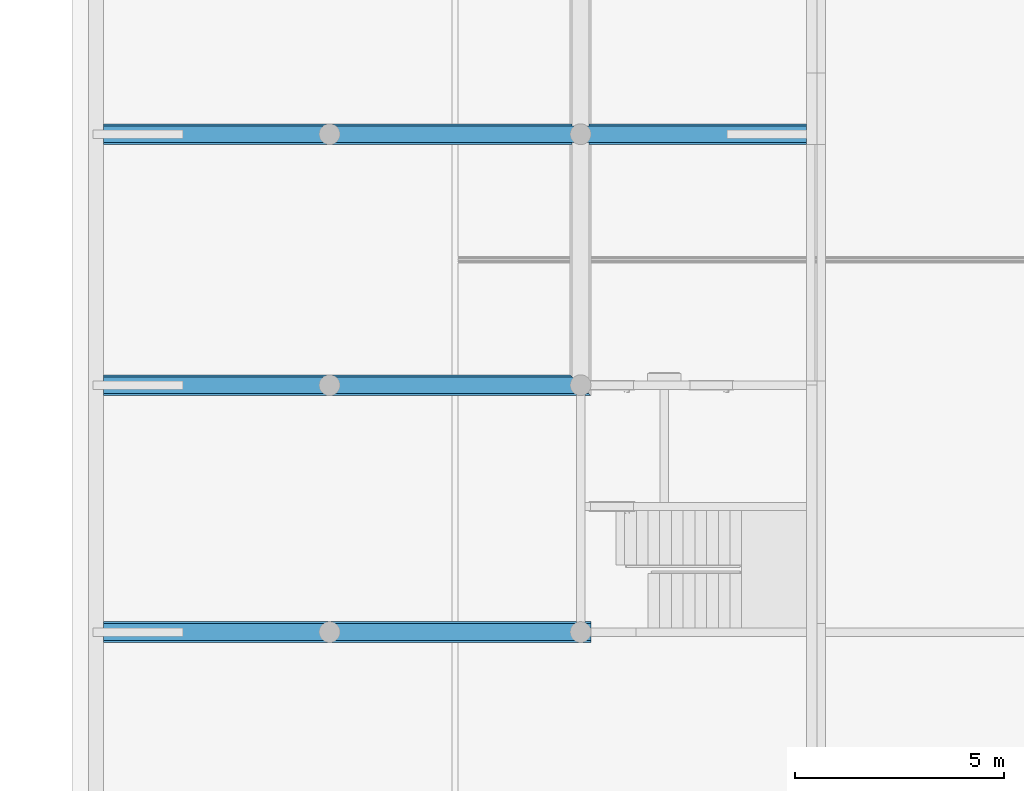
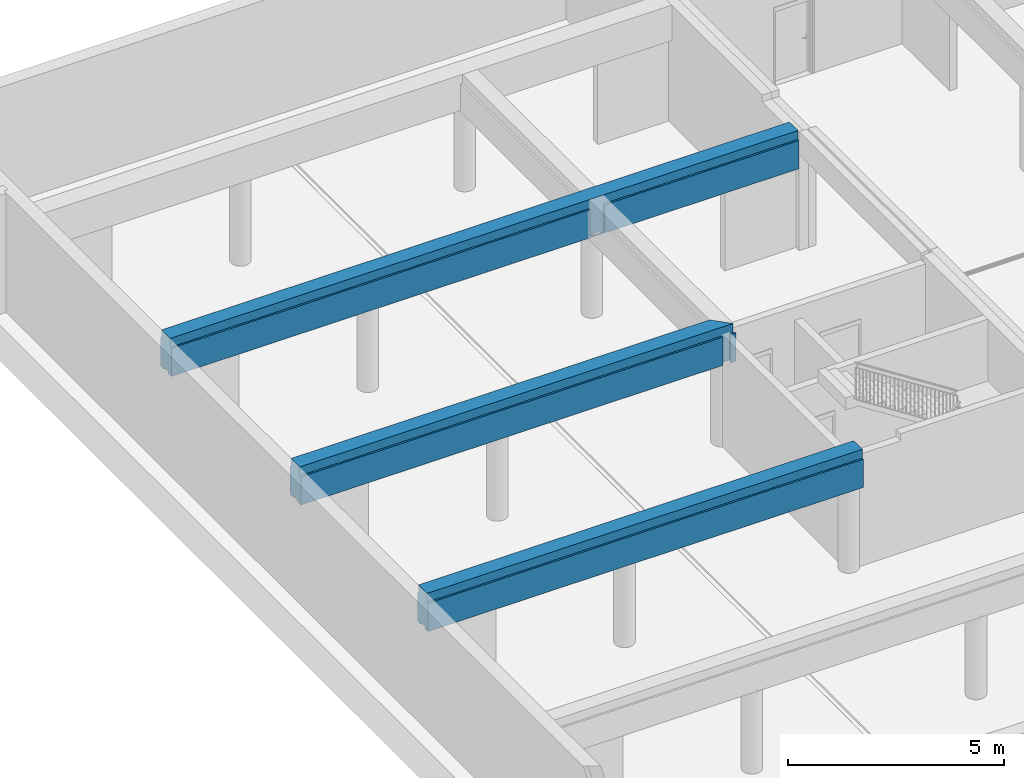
# One storey, part 7 of 25: 3 beams.
"""IFC2X3 building model written with IfcOpenShell, lengths in millimetres."""

from ifc_helpers import new_model, entity, si_unit, converted_unit, derived_unit, money_unit, direction, frame, origin_with_axes, place, context, subcontext, project, spatial, faceted_brep, material, material_list, type_object, element, save


model = new_model("IFC2X3")

# Units and contexts
model_context = context("Model", 3, precision=0.01, world=origin_with_axes(), true_north=direction((0.34421633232, 0.938890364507)))
body_context = subcontext(model_context, "Body", "Model", "MODEL_VIEW")
ifc_project = project(units=[si_unit("LENGTHUNIT", "METRE", prefix="MILLI"), si_unit("AREAUNIT", "SQUARE_METRE"), si_unit("VOLUMEUNIT", "CUBIC_METRE"), converted_unit("PLANEANGLEUNIT", "DEGREE", entity("IfcPlaneAngleMeasure", 0.0174532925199), si_unit("PLANEANGLEUNIT", "RADIAN"), dimensions=[0, 0, 0, 0, 0, 0, 0]), si_unit("SOLIDANGLEUNIT", "STERADIAN"), money_unit("USD"), converted_unit("TIMEUNIT", "Year", entity("IfcTimeMeasure", 31556926.0), si_unit("TIMEUNIT", "SECOND"), dimensions=[0, 0, 1, 0, 0, 0, 0]), si_unit("MASSUNIT", "GRAM", prefix="KILO"), si_unit("THERMODYNAMICTEMPERATUREUNIT", "DEGREE_CELSIUS"), si_unit("LUMINOUSINTENSITYUNIT", "LUMEN"), si_unit("ENERGYUNIT", "JOULE", prefix="MEGA"), derived_unit("THERMALCONDUCTANCEUNIT", [(si_unit("POWERUNIT", "WATT"), 1), (si_unit("LENGTHUNIT", "METRE"), -1), (si_unit("THERMODYNAMICTEMPERATUREUNIT", "KELVIN"), -1)]), derived_unit("SPECIFICHEATCAPACITYUNIT", [(si_unit("ENERGYUNIT", "JOULE"), 1), (si_unit("MASSUNIT", "GRAM", prefix="KILO"), -1), (si_unit("THERMODYNAMICTEMPERATUREUNIT", "KELVIN"), -1)]), derived_unit("MASSDENSITYUNIT", [(si_unit("MASSUNIT", "GRAM", prefix="KILO"), 1), (si_unit("VOLUMEUNIT", "CUBIC_METRE"), -1)])], contexts=[model_context])

# Site, building, storey
site_placement = place(None, origin_with_axes())
site = spatial("IfcSite", under=ifc_project, at=site_placement, Name="USTRONIE MORSKIE", CompositionType="ELEMENT")
building_placement = place(site_placement, origin_with_axes())
building = spatial("IfcBuilding", under=site, at=building_placement, Name="Budynek", CompositionType="ELEMENT")
storey_placement = place(building_placement, frame((0.0, 0.0, -3600.0), z_axis=(0.0, 0.0, 1.0), x_axis=(1.0, 0.0, 0.0)))
storey = spatial("IfcBuildingStorey", under=building, at=storey_placement, Name="GARAZ", CompositionType="ELEMENT", Elevation=-3600.0)

# Beams
ifc_material_1 = material(Name="Termoizolacja WEŁNA SKALNA")
ifc_material_2 = material(Name="Beton konstrukcyjny 01")
ifc_material_list = material_list([ifc_material_1, ifc_material_2])
beam_type = type_object("IfcBeamType", Name="GARAŻ P01 500 x 1050", PredefinedType="NOTDEFINED")
beam_1_placement = place(storey_placement, frame((350167.920919, 732801.199036, 3370.00030619), z_axis=(0.0, 0.0, 1.0), x_axis=(0.0, -1.0, 0.0)))
element("IfcBeam", 1, at=beam_1_placement, inside=storey, type_object=beam_type, material=ifc_material_list, Name="B1", context=body_context, shape_type="Brep", body=[
    faceted_brep([(85.5050358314, 5634.9231552, -1050.0), (43.4120444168, 5646.20193825, -1050.0), (0.0, 5650.0, -1050.0), (-43.4120444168, 5646.20193825, -1050.0), (-85.5050358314, 5634.9231552, -1050.0), (-125.0, 5616.50635095, -1050.0), (-160.696902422, 5591.51111078, -1050.0), (-191.51111078, 5560.69690242, -1050.0), (-216.506350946, 5525.0, -1050.0), (-234.923155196, 5485.50503583, -1050.0), (-246.201938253, 5443.41204442, -1050.0), (-250.0, 5400.0, -1050.0), (-250.0, 11150.0, -1050.0), (-176.104006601, 11223.8959934, -1050.0), (-160.696902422, 11208.4888892, -1050.0), (-125.0, 11183.4936491, -1050.0), (-85.5050358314, 11165.0768448, -1050.0), (-43.4120444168, 11153.7980617, -1050.0), (0.0, 11150.0, -1050.0), (43.4120444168, 11153.7980617, -1050.0), (85.5050358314, 11165.0768448, -1050.0), (125.0, 11183.4936491, -1050.0), (160.696902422, 11208.4888892, -1050.0), (191.51111078, 11239.3030976, -1050.0), (216.506350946, 11275.0, -1050.0), (228.1640424, 11300.0, -1050.0), (249.999993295, 11300.0, -1050.0), (250.0, 5400.0, -1050.0), (246.201938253, 5443.41204442, -1050.0), (234.923155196, 5485.50503583, -1050.0), (216.506350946, 5525.0, -1050.0), (191.51111078, 5560.69690242, -1050.0), (160.696902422, 5591.51111078, -1050.0), (125.0, 5616.50635095, -1050.0), (85.5050358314, 5634.9231552, -1000.0), (43.4120444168, 5646.20193825, -1000.0), (0.0, 5650.0, -1000.0), (-43.4120444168, 5646.20193825, -1000.0), (-85.5050358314, 5634.9231552, -1000.0), (-125.0, 5616.50635095, -1000.0), (-160.696902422, 5591.51111078, -1000.0), (-191.51111078, 5560.69690242, -1000.0), (-200.000002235, 5548.57350901, -1000.0), (-216.506350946, 5525.0, -1000.0), (-234.923155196, 5485.50503583, -1000.0), (-246.201938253, 5443.41204442, -1000.0), (-250.0, 5400.0, -1000.0), (-250.0, 0.0, -1050.0), (-250.0, 0.0, -250.00000447), (-250.0, 11150.0, -250.00000447), (-176.104006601, 11223.8959934, -1000.0), (-200.000002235, 11199.9999978, -250.00000447), (-200.000002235, 11199.9999978, -1000.00000224), (-160.696902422, 11208.4888892, -1000.0), (-125.0, 11183.4936491, -1000.0), (-85.5050358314, 11165.0768448, -1000.0), (-43.4120444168, 11153.7980617, -1000.0), (0.0, 11150.0, -1000.0), (43.4120444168, 11153.7980617, -1000.0), (85.5050358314, 11165.0768448, -1000.0), (125.0, 11183.4936491, -1000.0), (160.696902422, 11208.4888892, -1000.0), (191.51111078, 11239.3030976, -1000.0), (199.99999553, 11251.4264814, -1000.0), (216.506350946, 11275.0, -1000.0), (228.1640424, 11300.0, -1000.0), (199.99999553, 11300.0, -1000.0), (199.99999553, 11300.0, -250.00000447), (249.999993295, 11300.0, -250.00000447), (249.999993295, 0.0, -1050.0), (249.999993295, 0.0, -250.00000447), (250.0, 5400.0, -1000.0), (246.201938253, 5443.41204442, -1000.0), (234.923155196, 5485.50503583, -1000.0), (216.506350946, 5525.0, -1000.0), (199.99999553, 5548.57351859, -1000.0), (191.51111078, 5560.69690242, -1000.0), (160.696902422, 5591.51111078, -1000.0), (125.0, 5616.50635095, -1000.0), (-200.000002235, 5251.42649099, -1000.0), (-216.506350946, 5275.0, -1000.0), (-234.923155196, 5314.49496417, -1000.0), (-246.201938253, 5356.58795558, -1000.0), (-246.201938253, 5356.58795558, -1050.0), (-100.0, 0.0, -1050.0), (-100.0, 0.0, -1000.00030619), (-200.000002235, 0.0, -1000.00000224), (-200.000002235, 0.0, -250.00000447), (246.201938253, 5356.58795558, -1050.0), (100.0, 0.0, -1050.0), (100.0, 1900.0, -1050.0), (-100.0, 1900.0, -1050.0), (-234.923155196, 5314.49496417, -1050.0), (-216.506350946, 5275.0, -1050.0), (-191.51111078, 5239.30309758, -1050.0), (-160.696902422, 5208.48888922, -1050.0), (-125.0, 5183.49364905, -1050.0), (-85.5050358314, 5165.0768448, -1050.0), (-43.4120444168, 5153.79806175, -1050.0), (0.0, 5150.0, -1050.0), (43.4120444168, 5153.79806175, -1050.0), (85.5050358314, 5165.0768448, -1050.0), (125.0, 5183.49364905, -1050.0), (160.696902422, 5208.48888922, -1050.0), (191.51111078, 5239.30309758, -1050.0), (216.506350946, 5275.0, -1050.0), (234.923155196, 5314.49496417, -1050.0), (199.99999553, 5251.42648141, -1000.0), (199.99999553, 0.0, -1000.00000224), (199.99999553, 0.0, -250.00000447), (100.0, 0.0, -1000.00030619), (246.201938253, 5356.58795558, -1000.0), (234.923155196, 5314.49496417, -1000.0), (216.506350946, 5275.0, -1000.0), (-191.51111078, 5239.30309758, -1000.0), (-100.0, 1900.0, -1000.00030619), (100.0, 1900.0, -1000.00030619), (191.51111078, 5239.30309758, -1000.0), (160.696902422, 5208.48888922, -1000.0), (125.0, 5183.49364905, -1000.0), (85.5050358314, 5165.0768448, -1000.0), (43.4120444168, 5153.79806175, -1000.0), (0.0, 5150.0, -1000.0), (-43.4120444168, 5153.79806175, -1000.0), (-85.5050358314, 5165.0768448, -1000.0), (-125.0, 5183.49364905, -1000.0), (-160.696902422, 5208.48888922, -1000.0)], [[[0, 1, 2, 3, 4, 5, 6, 7, 8, 9, 10, 11, 12, 13, 14, 15, 16, 17, 18, 19, 20, 21, 22, 23, 24, 25, 26, 27, 28, 29, 30, 31, 32, 33]], [[34, 35, 1, 0]], [[35, 36, 2, 1]], [[36, 37, 3, 2]], [[37, 38, 4, 3]], [[38, 39, 5, 4]], [[39, 40, 6, 5]], [[40, 41, 7, 6]], [[41, 42, 43, 8, 7]], [[9, 8, 43, 44]], [[10, 9, 44, 45]], [[11, 10, 45, 46]], [[47, 48, 49, 12, 11]], [[50, 13, 12, 49, 51, 52]], [[13, 50, 53, 14]], [[53, 54, 15, 14]], [[54, 55, 16, 15]], [[55, 56, 17, 16]], [[56, 57, 18, 17]], [[57, 58, 19, 18]], [[58, 59, 20, 19]], [[59, 60, 21, 20]], [[60, 61, 22, 21]], [[61, 62, 23, 22]], [[24, 23, 62, 63, 64]], [[65, 25, 24, 64]], [[25, 65, 66, 67, 68, 26]], [[69, 27, 26, 68, 70]], [[28, 27, 71, 72]], [[29, 28, 72, 73]], [[30, 29, 73, 74]], [[75, 76, 31, 30, 74]], [[76, 77, 32, 31]], [[77, 78, 33, 32]], [[78, 34, 0, 33]], [[38, 37, 36, 35, 34, 78, 77, 76, 75, 63, 62, 61, 60, 59, 58, 57, 56, 55, 54, 53, 50, 52, 42, 41, 40, 39]], [[42, 79, 80, 81, 82, 46, 45, 44, 43]], [[83, 11, 46, 82]], [[47, 84, 85, 86, 87, 48]], [[48, 87, 51, 49]], [[88, 27, 69, 89, 90, 91, 84, 47, 11, 83, 92, 93, 94, 95, 96, 97, 98, 99, 100, 101, 102, 103, 104, 105, 106]], [[79, 42, 52, 51, 87, 86]], [[63, 66, 65, 64]], [[75, 107, 108, 109, 67, 66, 63]], [[70, 68, 67, 109]], [[108, 110, 89, 69, 70, 109]], [[27, 88, 111, 71]], [[107, 75, 74, 73, 72, 71, 111, 112, 113]], [[94, 93, 80, 79, 114]], [[93, 92, 81, 80]], [[92, 83, 82, 81]], [[91, 115, 85, 84]], [[114, 79, 86, 85, 115, 116, 110, 108, 107, 117, 118, 119, 120, 121, 122, 123, 124, 125, 126]], [[89, 110, 116, 90]], [[90, 116, 115, 91]], [[114, 126, 95, 94]], [[126, 125, 96, 95]], [[125, 124, 97, 96]], [[124, 123, 98, 97]], [[123, 122, 99, 98]], [[122, 121, 100, 99]], [[121, 120, 101, 100]], [[120, 119, 102, 101]], [[119, 118, 103, 102]], [[118, 117, 104, 103]], [[105, 104, 117, 107, 113]], [[106, 105, 113, 112]], [[88, 106, 112, 111]]]),
    faceted_brep([(176.104006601, 11576.1040066, -1050.0), (176.104006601, 11576.1040066, -1000.0), (199.99999553, 11599.9999955, -1000.00000224), (199.99999553, 11599.9999955, -250.00000447), (249.999993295, 11649.9999933, -250.00000447), (249.999993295, 11649.9999933, -1050.0), (191.51111078, 11560.6969024, -1000.0), (191.51111078, 11560.6969024, -1050.0), (199.99999553, 11548.5735186, -1000.0), (199.99999553, 11500.0, -1000.0), (199.99999553, 11500.0, -250.00000447), (249.999993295, 11500.0, -250.00000447), (249.999993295, 11500.0, -1050.0), (228.1640424, 11500.0, -1050.0), (216.506350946, 11525.0, -1050.0), (216.506350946, 11525.0, -1000.0), (228.1640424, 11500.0, -1000.0)], [[[0, 1, 2, 3, 4, 5]], [[6, 1, 0, 7]], [[6, 8, 2, 1]], [[8, 9, 10, 3, 2]], [[3, 10, 11, 4]], [[4, 11, 12, 5]], [[7, 0, 5, 12, 13, 14]], [[8, 6, 7, 14, 15]], [[9, 8, 15, 16]], [[16, 13, 12, 11, 10, 9]], [[14, 13, 16, 15]]]),
    faceted_brep([(200.0, 0.0, -1000.0), (200.0, 11600.0, -1000.0), (199.99999553, 11599.9999955, -250.00000447), (199.99999553, 0.0, -250.00000447), (-200.0, 0.0, -1000.0), (-200.0, 11200.0, -1000.0), (-200.000002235, 11199.9999978, -250.00000447), (-200.0, 11200.0, 0.0), (200.0, 11600.0, 0.0), (200.0, 0.0, 0.0), (-200.0, 0.0, 0.0), (-200.000002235, 0.0, -250.00000447)], [[[0, 1, 2, 3]], [[4, 5, 1, 0]], [[2, 1, 5, 6, 7, 8]], [[3, 2, 8, 9]], [[4, 0, 3, 9, 10, 11]], [[11, 6, 5, 4]], [[10, 7, 6, 11]], [[9, 8, 7, 10]]]),
])
beam_2_placement = place(storey_placement, frame((350167.920919, 726901.199036, 3370.00030619), z_axis=(0.0, 0.0, 1.0), x_axis=(0.0, -1.0, 0.0)))
element("IfcBeam", 2, at=beam_2_placement, inside=storey, type_object=beam_type, material=ifc_material_list, Name="B1", context=body_context, shape_type="Brep", body=[
    faceted_brep([(85.5050358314, 5634.9231552, -1050.0), (43.4120444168, 5646.20193825, -1050.0), (0.0, 5650.0, -1050.0), (-43.4120444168, 5646.20193825, -1050.0), (-85.5050358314, 5634.9231552, -1050.0), (-125.0, 5616.50635095, -1050.0), (-160.696902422, 5591.51111078, -1050.0), (-191.51111078, 5560.69690242, -1050.0), (-216.506350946, 5525.0, -1050.0), (-234.923155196, 5485.50503583, -1050.0), (-246.201938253, 5443.41204442, -1050.0), (-250.0, 5400.0, -1050.0), (-250.0, 11300.0, -1050.0), (-228.1640424, 11300.0, -1050.0), (-216.506350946, 11275.0, -1050.0), (-191.51111078, 11239.3030976, -1050.0), (-160.696902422, 11208.4888892, -1050.0), (-125.0, 11183.4936491, -1050.0), (-85.5050358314, 11165.0768448, -1050.0), (-43.4120444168, 11153.7980617, -1050.0), (0.0, 11150.0, -1050.0), (43.4120444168, 11153.7980617, -1050.0), (85.5050358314, 11165.0768448, -1050.0), (125.0, 11183.4936491, -1050.0), (160.696902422, 11208.4888892, -1050.0), (191.51111078, 11239.3030976, -1050.0), (216.506350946, 11275.0, -1050.0), (234.923155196, 11314.4949642, -1050.0), (246.201938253, 11356.5879556, -1050.0), (250.0, 11400.0, -1050.0), (250.0, 5400.0, -1050.0), (246.201938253, 5443.41204442, -1050.0), (234.923155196, 5485.50503583, -1050.0), (216.506350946, 5525.0, -1050.0), (191.51111078, 5560.69690242, -1050.0), (160.696902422, 5591.51111078, -1050.0), (125.0, 5616.50635095, -1050.0), (85.5050358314, 5634.9231552, -1000.0), (43.4120444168, 5646.20193825, -1000.0), (0.0, 5650.0, -1000.0), (-43.4120444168, 5646.20193825, -1000.0), (-85.5050358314, 5634.9231552, -1000.0), (-125.0, 5616.50635095, -1000.0), (-160.696902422, 5591.51111078, -1000.0), (-191.51111078, 5560.69690242, -1000.0), (-200.000002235, 5548.57350901, -1000.0), (-216.506350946, 5525.0, -1000.0), (-234.923155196, 5485.50503583, -1000.0), (-246.201938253, 5443.41204442, -1000.0), (-250.0, 5400.0, -1000.0), (-250.0, 0.0, -250.00000447), (-250.0, 11300.0, -250.00000447), (-250.0, 0.0, -1050.0), (-228.1640424, 11300.0, -1000.0), (-200.000002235, 11300.0, -250.00000447), (-200.000002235, 11300.0, -1000.0), (-216.506350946, 11275.0, -1000.0), (-200.000002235, 11251.426491, -1000.0), (-191.51111078, 11239.3030976, -1000.0), (-160.696902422, 11208.4888892, -1000.0), (-125.0, 11183.4936491, -1000.0), (-85.5050358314, 11165.0768448, -1000.0), (-43.4120444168, 11153.7980617, -1000.0), (0.0, 11150.0, -1000.0), (43.4120444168, 11153.7980617, -1000.0), (85.5050358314, 11165.0768448, -1000.0), (125.0, 11183.4936491, -1000.0), (160.696902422, 11208.4888892, -1000.0), (191.51111078, 11239.3030976, -1000.0), (199.99999553, 11251.4264814, -1000.0), (216.506350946, 11275.0, -1000.0), (234.923155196, 11314.4949642, -1000.0), (246.201938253, 11356.5879556, -1000.0), (250.0, 11400.0, -1000.0), (249.999993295, 0.0, -250.00000447), (249.999993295, 0.0, -1050.0), (249.999993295, 11650.0, -1050.0), (249.999993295, 11650.0, -250.00000447), (250.0, 5400.0, -1000.0), (246.201938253, 5443.41204442, -1000.0), (234.923155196, 5485.50503583, -1000.0), (216.506350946, 5525.0, -1000.0), (199.99999553, 5548.57351859, -1000.0), (191.51111078, 5560.69690242, -1000.0), (160.696902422, 5591.51111078, -1000.0), (125.0, 5616.50635095, -1000.0), (-200.000002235, 5251.42649099, -1000.0), (-216.506350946, 5275.0, -1000.0), (-234.923155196, 5314.49496417, -1000.0), (-246.201938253, 5356.58795558, -1000.0), (-246.201938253, 5356.58795558, -1050.0), (-200.000002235, 0.0, -250.00000447), (246.201938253, 5356.58795558, -1050.0), (100.0, 0.0, -1050.0), (100.0, 1900.0, -1050.0), (-100.0, 1900.0, -1050.0), (-100.0, 0.0, -1050.0), (-234.923155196, 5314.49496417, -1050.0), (-216.506350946, 5275.0, -1050.0), (-191.51111078, 5239.30309758, -1050.0), (-160.696902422, 5208.48888922, -1050.0), (-125.0, 5183.49364905, -1050.0), (-85.5050358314, 5165.0768448, -1050.0), (-43.4120444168, 5153.79806175, -1050.0), (0.0, 5150.0, -1050.0), (43.4120444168, 5153.79806175, -1050.0), (85.5050358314, 5165.0768448, -1050.0), (125.0, 5183.49364905, -1050.0), (160.696902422, 5208.48888922, -1050.0), (191.51111078, 5239.30309758, -1050.0), (216.506350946, 5275.0, -1050.0), (234.923155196, 5314.49496417, -1050.0), (-100.0, 0.0, -1000.00030619), (-200.000002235, 0.0, -1000.00000224), (199.99999553, 11548.5735186, -1000.0), (216.506350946, 11525.0, -1000.0), (234.923155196, 11485.5050358, -1000.0), (246.201938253, 11443.4120444, -1000.0), (246.201938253, 11443.4120444, -1050.0), (199.99999553, 0.0, -1000.00000224), (100.0, 0.0, -1000.00030619), (199.99999553, 0.0, -250.00000447), (125.0, 11616.5063509, -1050.0), (100.0, 11628.1640424, -1050.0), (100.0, 11650.0, -1050.0), (234.923155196, 11485.5050358, -1050.0), (216.506350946, 11525.0, -1050.0), (191.51111078, 11560.6969024, -1050.0), (160.696902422, 11591.5111108, -1050.0), (100.0, 11650.0, -1000.00000224), (199.99999553, 11650.0, -1000.00000224), (199.99999553, 11650.0, -250.00000447), (246.201938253, 5356.58795558, -1000.0), (199.99999553, 5251.42648141, -1000.0), (234.923155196, 5314.49496417, -1000.0), (216.506350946, 5275.0, -1000.0), (-191.51111078, 5239.30309758, -1000.0), (100.0, 1900.0, -1000.00030619), (-100.0, 1900.0, -1000.00030619), (-160.696902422, 5208.48888922, -1000.0), (-125.0, 5183.49364905, -1000.0), (-85.5050358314, 5165.0768448, -1000.0), (-43.4120444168, 5153.79806175, -1000.0), (0.0, 5150.0, -1000.0), (43.4120444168, 5153.79806175, -1000.0), (85.5050358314, 5165.0768448, -1000.0), (125.0, 5183.49364905, -1000.0), (160.696902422, 5208.48888922, -1000.0), (191.51111078, 5239.30309758, -1000.0), (191.51111078, 11560.6969024, -1000.0), (125.0, 11616.5063509, -1000.0), (100.0, 11628.1640424, -1000.0), (160.696902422, 11591.5111108, -1000.0)], [[[0, 1, 2, 3, 4, 5, 6, 7, 8, 9, 10, 11, 12, 13, 14, 15, 16, 17, 18, 19, 20, 21, 22, 23, 24, 25, 26, 27, 28, 29, 30, 31, 32, 33, 34, 35, 36]], [[37, 38, 1, 0]], [[38, 39, 2, 1]], [[39, 40, 3, 2]], [[40, 41, 4, 3]], [[41, 42, 5, 4]], [[42, 43, 6, 5]], [[43, 44, 7, 6]], [[44, 45, 46, 8, 7]], [[9, 8, 46, 47]], [[10, 9, 47, 48]], [[11, 10, 48, 49]], [[50, 51, 12, 11, 52]], [[53, 13, 12, 51, 54, 55]], [[13, 53, 56, 14]], [[15, 14, 56, 57, 58]], [[58, 59, 16, 15]], [[59, 60, 17, 16]], [[60, 61, 18, 17]], [[61, 62, 19, 18]], [[62, 63, 20, 19]], [[63, 64, 21, 20]], [[64, 65, 22, 21]], [[65, 66, 23, 22]], [[66, 67, 24, 23]], [[67, 68, 25, 24]], [[26, 25, 68, 69, 70]], [[27, 26, 70, 71]], [[28, 27, 71, 72]], [[29, 28, 72, 73]], [[74, 75, 30, 29, 76, 77]], [[31, 30, 78, 79]], [[32, 31, 79, 80]], [[33, 32, 80, 81]], [[82, 83, 34, 33, 81]], [[83, 84, 35, 34]], [[84, 85, 36, 35]], [[85, 37, 0, 36]], [[41, 40, 39, 38, 37, 85, 84, 83, 82, 69, 68, 67, 66, 65, 64, 63, 62, 61, 60, 59, 58, 57, 45, 44, 43, 42]], [[45, 86, 87, 88, 89, 49, 48, 47, 46]], [[90, 11, 49, 89]], [[91, 54, 51, 50]], [[92, 30, 75, 93, 94, 95, 96, 52, 11, 90, 97, 98, 99, 100, 101, 102, 103, 104, 105, 106, 107, 108, 109, 110, 111]], [[52, 96, 112, 113, 91, 50]], [[86, 45, 57, 55, 54, 91, 113]], [[53, 55, 57, 56]], [[69, 114, 115, 116, 117, 73, 72, 71, 70]], [[118, 29, 73, 117]], [[119, 120, 93, 75, 74, 121]], [[122, 123, 124, 76, 29, 118, 125, 126, 127, 128]], [[76, 124, 129, 130, 131, 77]], [[121, 74, 77, 131]], [[30, 92, 132, 78]], [[133, 82, 81, 80, 79, 78, 132, 134, 135]], [[82, 133, 119, 121, 131, 130, 114, 69]], [[99, 98, 87, 86, 136]], [[98, 97, 88, 87]], [[97, 90, 89, 88]], [[93, 120, 137, 94]], [[94, 137, 138, 95]], [[95, 138, 112, 96]], [[136, 139, 100, 99]], [[139, 140, 101, 100]], [[140, 141, 102, 101]], [[141, 142, 103, 102]], [[142, 143, 104, 103]], [[143, 144, 105, 104]], [[144, 145, 106, 105]], [[145, 146, 107, 106]], [[146, 147, 108, 107]], [[147, 148, 109, 108]], [[110, 109, 148, 133, 135]], [[111, 110, 135, 134]], [[92, 111, 134, 132]], [[136, 86, 113, 112, 138, 137, 120, 119, 133, 148, 147, 146, 145, 144, 143, 142, 141, 140, 139]], [[114, 149, 127, 126, 115]], [[126, 125, 116, 115]], [[125, 118, 117, 116]], [[150, 151, 123, 122]], [[123, 151, 129, 124]], [[149, 152, 128, 127]], [[152, 150, 122, 128]], [[149, 114, 130, 129, 151, 150, 152]]]),
    faceted_brep([(-160.696902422, 11591.5111108, -1000.0), (-125.0, 11616.5063509, -1000.0), (-100.0, 11628.1640424, -1000.0), (-100.0, 11650.0, -1000.00000224), (-200.000002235, 11650.0, -1000.00000224), (-200.000002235, 11548.573509, -1000.0), (-191.51111078, 11560.6969024, -1000.0), (-160.696902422, 11591.5111108, -1050.0), (-125.0, 11616.5063509, -1050.0), (-100.0, 11628.1640424, -1050.0), (-100.0, 11650.0, -1050.0), (-250.0, 11650.0, -1050.0), (-250.0, 11650.0, -250.00000447), (-200.000002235, 11650.0, -250.00000447), (-200.000002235, 11500.0, -1000.0), (-200.000002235, 11500.0, -250.00000447), (-216.506350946, 11525.0, -1000.0), (-216.506350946, 11525.0, -1050.0), (-191.51111078, 11560.6969024, -1050.0), (-228.1640424, 11500.0, -1050.0), (-250.0, 11500.0, -1050.0), (-250.0, 11500.0, -250.00000447), (-228.1640424, 11500.0, -1000.0)], [[[0, 1, 2, 3, 4, 5, 6]], [[1, 0, 7, 8]], [[9, 2, 1, 8]], [[2, 9, 10, 3]], [[4, 3, 10, 11, 12, 13]], [[14, 5, 4, 13, 15]], [[6, 5, 16, 17, 18]], [[0, 6, 18, 7]], [[17, 19, 20, 11, 10, 9, 8, 7, 18]], [[11, 20, 21, 12]], [[12, 21, 15, 13]], [[5, 14, 22, 16]], [[22, 14, 15, 21, 20, 19]], [[19, 17, 16, 22]]]),
    faceted_brep([(200.0, 0.0, -1000.0), (200.0, 11650.0, -1000.0), (199.99999553, 11650.0, -250.00000447), (199.99999553, 0.0, -250.00000447), (-200.0, 0.0, -1000.0), (-200.0, 11650.0, -1000.0), (-200.000002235, 11650.0, -250.00000447), (-200.0, 11650.0, 0.0), (200.0, 11650.0, 0.0), (200.0, 0.0, 0.0), (-200.0, 0.0, 0.0), (-200.000002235, 0.0, -250.00000447)], [[[0, 1, 2, 3]], [[4, 5, 1, 0]], [[2, 1, 5, 6, 7, 8]], [[3, 2, 8, 9]], [[4, 0, 3, 9, 10, 11]], [[11, 6, 5, 4]], [[10, 7, 6, 11]], [[9, 8, 7, 10]]]),
])
beam_3_placement = place(storey_placement, frame((366967.920919, 738801.199036, 3370.00030619), z_axis=(0.0, 0.0, 1.0), x_axis=(0.0, 1.0, 0.0)))
element("IfcBeam", 3, at=beam_3_placement, inside=storey, type_object=beam_type, material=ifc_material_list, Name="B1", context=body_context, shape_type="Brep", body=[
    faceted_brep([(-85.5050358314, 5165.0768448, -1050.0), (-43.4120444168, 5153.79806175, -1050.0), (0.0, 5150.0, -1050.0), (43.4120444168, 5153.79806175, -1050.0), (85.5050358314, 5165.0768448, -1050.0), (125.0, 5183.49364905, -1050.0), (160.696902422, 5208.48888922, -1050.0), (191.51111078, 5239.30309758, -1050.0), (216.506350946, 5275.0, -1050.0), (234.923155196, 5314.49496417, -1050.0), (246.201938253, 5356.58795558, -1050.0), (250.0, 5400.0, -1050.0), (249.999993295, 0.0, -1050.0), (100.0, 0.0, -1050.0), (100.0, 1900.0, -1050.0), (-100.0, 1900.0, -1050.0), (-100.0, 0.0, -1050.0), (-250.0, 0.0, -1050.0), (-250.0, 5400.0, -1050.0), (-246.201938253, 5356.58795558, -1050.0), (-234.923155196, 5314.49496417, -1050.0), (-216.506350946, 5275.0, -1050.0), (-191.51111078, 5239.30309758, -1050.0), (-160.696902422, 5208.48888922, -1050.0), (-125.0, 5183.49364905, -1050.0), (-85.5050358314, 5165.0768448, -1000.0), (-43.4120444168, 5153.79806175, -1000.0), (0.0, 5150.0, -1000.0), (43.4120444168, 5153.79806175, -1000.0), (85.5050358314, 5165.0768448, -1000.0), (125.0, 5183.49364905, -1000.0), (160.696902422, 5208.48888922, -1000.0), (191.51111078, 5239.30309758, -1000.0), (199.99999553, 5251.42648141, -1000.0), (216.506350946, 5275.0, -1000.0), (234.923155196, 5314.49496417, -1000.0), (246.201938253, 5356.58795558, -1000.0), (250.0, 5400.0, -1000.0), (249.999993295, 16800.0, -1050.0), (249.999993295, 16800.0, -250.00000447), (249.999993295, 5600.00000224, -250.00000447), (249.999993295, 5600.0, -1000.0), (249.999993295, 5200.0, -1000.0), (249.999993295, 5200.00000447, -250.00000447), (249.999993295, 0.0, -250.00000447), (250.0, 11400.0, -1050.0), (199.99999553, 0.0, -1000.00000224), (100.0, 0.0, -1000.0), (199.99999553, 0.0, -250.00000447), (100.0, 1900.0, -1000.0), (-100.0, 1900.0, -1000.0), (-100.0, 0.0, -1000.0), (-200.000002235, 0.0, -1000.00000224), (-200.000002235, 0.0, -250.00000447), (-250.0, 0.0, -250.00000447), (-250.0, 5200.00000447, -250.00000447), (-250.0, 5200.0, -1000.0), (-250.0, 5400.0, -1000.0), (-250.0, 5600.0, -1000.0), (-250.0, 5600.00000224, -250.00000447), (-250.0, 16800.0, -250.00000447), (-250.0, 16800.0, -1050.0), (-250.0, 11400.0, -1050.0), (-246.201938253, 5356.58795558, -1000.0), (-234.923155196, 5314.49496417, -1000.0), (-216.506350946, 5275.0, -1000.0), (-200.000002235, 5251.42649099, -1000.0), (-191.51111078, 5239.30309758, -1000.0), (-160.696902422, 5208.48888922, -1000.0), (-125.0, 5183.49364905, -1000.0), (-200.000002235, 5200.0, -1000.0), (199.99999553, 5200.0, -1000.0), (246.201938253, 5443.41204442, -1000.0), (246.201938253, 5443.41204442, -1050.0), (100.0, 16800.0, -1050.0), (100.0, 16800.0, -1000.00030619), (199.99999553, 16800.0, -1000.00000224), (199.99999553, 16800.0, -250.00000447), (199.99999553, 5600.00000224, -250.00000447), (199.99999553, 5600.0, -1000.0), (199.99999553, 5548.57351859, -1000.0), (216.506350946, 5525.0, -1000.0), (234.923155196, 5485.50503583, -1000.0), (199.99999553, 5200.00000447, -250.00000447), (-246.201938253, 5443.41204442, -1050.0), (-246.201938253, 11356.5879556, -1050.0), (-234.923155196, 11314.4949642, -1050.0), (-216.506350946, 11275.0, -1050.0), (-191.51111078, 11239.3030976, -1050.0), (-160.696902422, 11208.4888892, -1050.0), (-125.0, 11183.4936491, -1050.0), (-85.5050358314, 11165.0768448, -1050.0), (-43.4120444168, 11153.7980617, -1050.0), (0.0, 11150.0, -1050.0), (43.4120444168, 11153.7980617, -1050.0), (85.5050358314, 11165.0768448, -1050.0), (125.0, 11183.4936491, -1050.0), (160.696902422, 11208.4888892, -1050.0), (191.51111078, 11239.3030976, -1050.0), (216.506350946, 11275.0, -1050.0), (234.923155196, 11314.4949642, -1050.0), (246.201938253, 11356.5879556, -1050.0), (234.923155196, 5485.50503583, -1050.0), (216.506350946, 5525.0, -1050.0), (191.51111078, 5560.69690242, -1050.0), (160.696902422, 5591.51111078, -1050.0), (125.0, 5616.50635095, -1050.0), (85.5050358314, 5634.9231552, -1050.0), (43.4120444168, 5646.20193825, -1050.0), (0.0, 5650.0, -1050.0), (-43.4120444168, 5646.20193825, -1050.0), (-85.5050358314, 5634.9231552, -1050.0), (-125.0, 5616.50635095, -1050.0), (-160.696902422, 5591.51111078, -1050.0), (-191.51111078, 5560.69690242, -1050.0), (-216.506350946, 5525.0, -1050.0), (-234.923155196, 5485.50503583, -1050.0), (-246.201938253, 11443.4120444, -1050.0), (-100.0, 16800.0, -1050.0), (-100.0, 14900.0, -1050.0), (100.0, 14900.0, -1050.0), (246.201938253, 11443.4120444, -1050.0), (234.923155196, 11485.5050358, -1050.0), (216.506350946, 11525.0, -1050.0), (191.51111078, 11560.6969024, -1050.0), (160.696902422, 11591.5111108, -1050.0), (125.0, 11616.5063509, -1050.0), (85.5050358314, 11634.9231552, -1050.0), (43.4120444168, 11646.2019383, -1050.0), (0.0, 11650.0, -1050.0), (-43.4120444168, 11646.2019383, -1050.0), (-85.5050358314, 11634.9231552, -1050.0), (-125.0, 11616.5063509, -1050.0), (-160.696902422, 11591.5111108, -1050.0), (-191.51111078, 11560.6969024, -1050.0), (-216.506350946, 11525.0, -1050.0), (-234.923155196, 11485.5050358, -1050.0), (-200.000002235, 5200.00000447, -250.00000447), (-216.506350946, 5525.0, -1000.0), (-200.000002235, 5548.57350901, -1000.0), (-200.000002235, 5600.0, -1000.0), (-246.201938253, 5443.41204442, -1000.0), (-234.923155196, 5485.50503583, -1000.0), (-200.000002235, 5600.00000224, -250.00000447), (-200.000002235, 16800.0, -250.00000447), (-200.000002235, 16800.0, -1000.00000224), (-100.0, 16800.0, -1000.00030619), (100.0, 14900.0, -1000.00030619), (191.51111078, 11560.6969024, -1000.0), (199.99999553, 11548.5735186, -1000.0), (-100.0, 14900.0, -1000.00030619), (-200.000002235, 11548.573509, -1000.0), (-191.51111078, 11560.6969024, -1000.0), (-160.696902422, 11591.5111108, -1000.0), (-125.0, 11616.5063509, -1000.0), (-85.5050358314, 11634.9231552, -1000.0), (-43.4120444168, 11646.2019383, -1000.0), (0.0, 11650.0, -1000.0), (43.4120444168, 11646.2019383, -1000.0), (85.5050358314, 11634.9231552, -1000.0), (125.0, 11616.5063509, -1000.0), (160.696902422, 11591.5111108, -1000.0), (199.99999553, 11251.4264814, -1000.0), (191.51111078, 5560.69690242, -1000.0), (191.51111078, 11239.3030976, -1000.0), (160.696902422, 11208.4888892, -1000.0), (125.0, 11183.4936491, -1000.0), (85.5050358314, 11165.0768448, -1000.0), (43.4120444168, 11153.7980617, -1000.0), (0.0, 11150.0, -1000.0), (-43.4120444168, 11153.7980617, -1000.0), (-85.5050358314, 11165.0768448, -1000.0), (-125.0, 11183.4936491, -1000.0), (-160.696902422, 11208.4888892, -1000.0), (-191.51111078, 11239.3030976, -1000.0), (-200.000002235, 11251.426491, -1000.0), (-191.51111078, 5560.69690242, -1000.0), (-160.696902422, 5591.51111078, -1000.0), (-125.0, 5616.50635095, -1000.0), (-85.5050358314, 5634.9231552, -1000.0), (-43.4120444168, 5646.20193825, -1000.0), (0.0, 5650.0, -1000.0), (43.4120444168, 5646.20193825, -1000.0), (85.5050358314, 5634.9231552, -1000.0), (125.0, 5616.50635095, -1000.0), (160.696902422, 5591.51111078, -1000.0), (-250.0, 11400.0, -1000.0), (-246.201938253, 11356.5879556, -1000.0), (-234.923155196, 11314.4949642, -1000.0), (-216.506350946, 11275.0, -1000.0), (216.506350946, 11275.0, -1000.0), (234.923155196, 11314.4949642, -1000.0), (246.201938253, 11356.5879556, -1000.0), (250.0, 11400.0, -1000.0), (-246.201938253, 11443.4120444, -1000.0), (246.201938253, 11443.4120444, -1000.0), (234.923155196, 11485.5050358, -1000.0), (216.506350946, 11525.0, -1000.0), (-216.506350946, 11525.0, -1000.0), (-234.923155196, 11485.5050358, -1000.0)], [[[0, 1, 2, 3, 4, 5, 6, 7, 8, 9, 10, 11, 12, 13, 14, 15, 16, 17, 18, 19, 20, 21, 22, 23, 24]], [[25, 26, 1, 0]], [[26, 27, 2, 1]], [[27, 28, 3, 2]], [[28, 29, 4, 3]], [[29, 30, 5, 4]], [[30, 31, 6, 5]], [[31, 32, 7, 6]], [[32, 33, 34, 8, 7]], [[34, 35, 9, 8]], [[35, 36, 10, 9]], [[36, 37, 11, 10]], [[38, 39, 40, 41, 37, 42, 43, 44, 12, 11, 45]], [[46, 47, 13, 12, 44, 48]], [[14, 13, 47, 49]], [[14, 49, 50, 15]], [[15, 50, 51, 16]], [[17, 16, 51, 52, 53, 54]], [[54, 55, 56, 57, 58, 59, 60, 61, 62, 18, 17]], [[57, 63, 19, 18]], [[63, 64, 20, 19]], [[64, 65, 21, 20]], [[66, 67, 22, 21, 65]], [[67, 68, 23, 22]], [[68, 69, 24, 23]], [[69, 25, 0, 24]], [[29, 28, 27, 26, 25, 69, 68, 67, 66, 70, 52, 51, 50, 49, 47, 46, 71, 33, 32, 31, 30]], [[34, 33, 71, 42, 37, 36, 35]], [[37, 72, 73, 11]], [[38, 74, 75, 76, 77, 39]], [[40, 39, 77, 78]], [[40, 78, 79, 41]], [[72, 37, 41, 79, 80, 81, 82]], [[42, 71, 83, 43]], [[83, 48, 44, 43]], [[84, 18, 62, 85, 86, 87, 88, 89, 90, 91, 92, 93, 94, 95, 96, 97, 98, 99, 100, 101, 45, 11, 73, 102, 103, 104, 105, 106, 107, 108, 109, 110, 111, 112, 113, 114, 115, 116]], [[117, 62, 61, 118, 119, 120, 74, 38, 45, 121, 122, 123, 124, 125, 126, 127, 128, 129, 130, 131, 132, 133, 134, 135, 136]], [[71, 46, 48, 83]], [[137, 53, 52, 70]], [[55, 54, 53, 137]], [[70, 56, 55, 137]], [[63, 57, 56, 70, 66, 65, 64]], [[138, 139, 140, 58, 57, 141, 142]], [[143, 59, 58, 140]], [[143, 144, 60, 59]], [[145, 146, 118, 61, 60, 144]], [[141, 57, 18, 84]], [[72, 82, 102, 73]], [[120, 147, 75, 74]], [[148, 149, 76, 75, 147, 150, 146, 145, 151, 152, 153, 154, 155, 156, 157, 158, 159, 160, 161]], [[149, 162, 79, 78, 77, 76]], [[163, 80, 79, 162, 164, 165, 166, 167, 168, 169, 170, 171, 172, 173, 174, 175, 140, 139, 176, 177, 178, 179, 180, 181, 182, 183, 184, 185]], [[81, 80, 163, 104, 103]], [[82, 81, 103, 102]], [[85, 62, 186, 187]], [[86, 85, 187, 188]], [[87, 86, 188, 189]], [[175, 174, 88, 87, 189]], [[174, 173, 89, 88]], [[173, 172, 90, 89]], [[172, 171, 91, 90]], [[171, 170, 92, 91]], [[170, 169, 93, 92]], [[169, 168, 94, 93]], [[168, 167, 95, 94]], [[167, 166, 96, 95]], [[166, 165, 97, 96]], [[165, 164, 98, 97]], [[164, 162, 190, 99, 98]], [[100, 99, 190, 191]], [[101, 100, 191, 192]], [[45, 101, 192, 193]], [[163, 185, 105, 104]], [[185, 184, 106, 105]], [[184, 183, 107, 106]], [[183, 182, 108, 107]], [[182, 181, 109, 108]], [[181, 180, 110, 109]], [[180, 179, 111, 110]], [[179, 178, 112, 111]], [[178, 177, 113, 112]], [[177, 176, 114, 113]], [[139, 138, 115, 114, 176]], [[138, 142, 116, 115]], [[142, 141, 84, 116]], [[62, 117, 194, 186]], [[118, 146, 150, 119]], [[119, 150, 147, 120]], [[121, 45, 193, 195]], [[122, 121, 195, 196]], [[123, 122, 196, 197]], [[124, 123, 197, 149, 148]], [[148, 161, 125, 124]], [[161, 160, 126, 125]], [[160, 159, 127, 126]], [[159, 158, 128, 127]], [[158, 157, 129, 128]], [[157, 156, 130, 129]], [[156, 155, 131, 130]], [[155, 154, 132, 131]], [[154, 153, 133, 132]], [[153, 152, 134, 133]], [[135, 134, 152, 151, 198]], [[136, 135, 198, 199]], [[117, 136, 199, 194]], [[175, 151, 145, 144, 143, 140]], [[162, 149, 197, 196, 195, 193, 192, 191, 190]], [[151, 175, 189, 188, 187, 186, 194, 199, 198]]]),
    faceted_brep([(200.0, 0.0, -1000.0), (200.0, 16800.0, -1000.0), (199.99999553, 16800.0, -250.00000447), (199.99999553, 0.0, -250.00000447), (-200.0, 0.0, -1000.0), (-200.0, 16800.0, -1000.0), (-200.000002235, 16800.0, -250.00000447), (-200.0, 16800.0, 0.0), (200.0, 16800.0, 0.0), (200.0, 0.0, 0.0), (-200.0, 0.0, 0.0), (-200.000002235, 0.0, -250.00000447)], [[[0, 1, 2, 3]], [[4, 5, 1, 0]], [[2, 1, 5, 6, 7, 8]], [[3, 2, 8, 9]], [[4, 0, 3, 9, 10, 11]], [[11, 6, 5, 4]], [[10, 7, 6, 11]], [[9, 8, 7, 10]]]),
])

save(model, "model.ifc")
